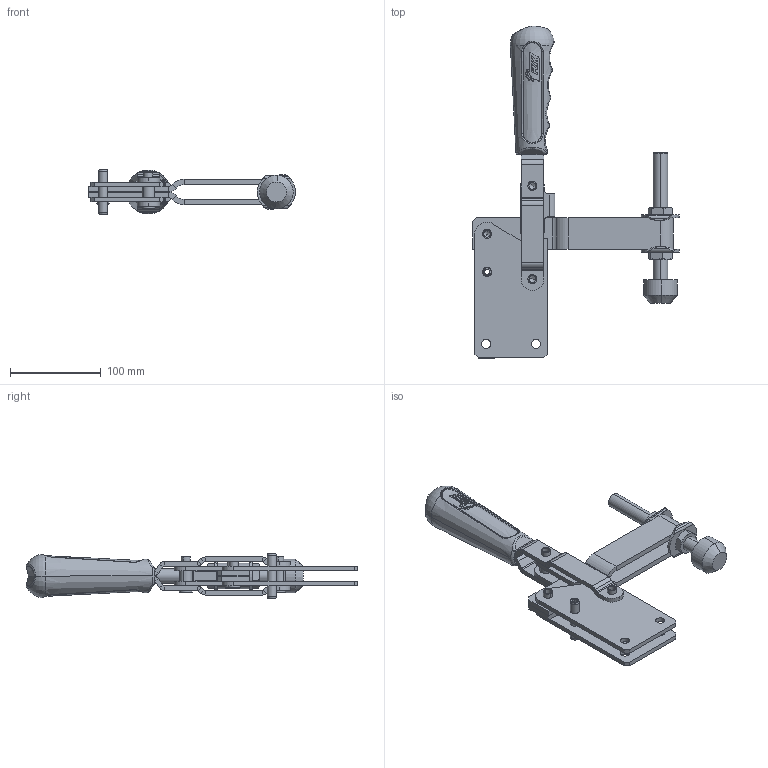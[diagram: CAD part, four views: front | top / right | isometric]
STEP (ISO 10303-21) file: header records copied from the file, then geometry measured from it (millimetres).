
FILE_DESCRIPTION (( 'STEP AP214' ), '1' );
FILE_NAME ('205_BU.STEP', '2024-09-09T16:35:45', ( '' ), ( '' ), 'SwSTEP 2.0', 'SolidWorks 2023', '' );
FILE_SCHEMA (( 'AUTOMOTIVE_DESIGN' ));
Length unit declared in the file: millimetre
Products named in the file (16): FZK_205_B_02_00; FZK_205_BU_02_00; TTMK_05_00; FZK_205_B_05_00; 205_BU; FZK_205_B_07_00; FZK_205_B_02A_00; FZK_205_BU_01_00; M16 GİJON; FZK_205_B_06_00; spring pin slotted_hd_din_Spring Pin ISO 8752 - 10 x 50 - St; hex thin nut chamfered gradeab_iso_ISO - 4035 - M16 - N; FZK_205_B_01_00; M16 PABUÇ; M16 PUL; FZK_205_B_04_00
Assembly tree (22 placements, depth 3):
  205_BU
    M16 PABUÇ
    hex thin nut chamfered gradeab_iso_ISO - 4035 - M16 - N  x2
    FZK_205_B_01_00  x2
    TTMK_05_00
    FZK_205_B_02_00
      FZK_205_B_02A_00  x2
    FZK_205_B_04_00
    M16 GİJON
    FZK_205_BU_02_00
    FZK_205_B_05_00  x2
    FZK_205_B_06_00  x2
    FZK_205_B_07_00  x2
    spring pin slotted_hd_din_Spring Pin ISO 8752 - 10 x 50 - St
    M16 PUL  x2
    FZK_205_BU_01_00
Bounding box: 228.37 x 366.38 x 50 mm (x, y, z)
Volume: 511412.5 mm3; surface area: 195236.1 mm2
Topology: 21 solids, 21 shells, 757 faces, 1779 edges, 1065 vertices
Faces by surface type: plane 223, bspline 217, cylinder 210, cone 81, sphere 20, torus 6
Entity records: 31096 total; most frequent: CARTESIAN_POINT 18671, ORIENTED_EDGE 2788, DIRECTION 1930, EDGE_CURVE 1394, VERTEX_POINT 853, AXIS2_PLACEMENT_3D 770, EDGE_LOOP 639, B_SPLINE_CURVE_WITH_KNOTS 616
